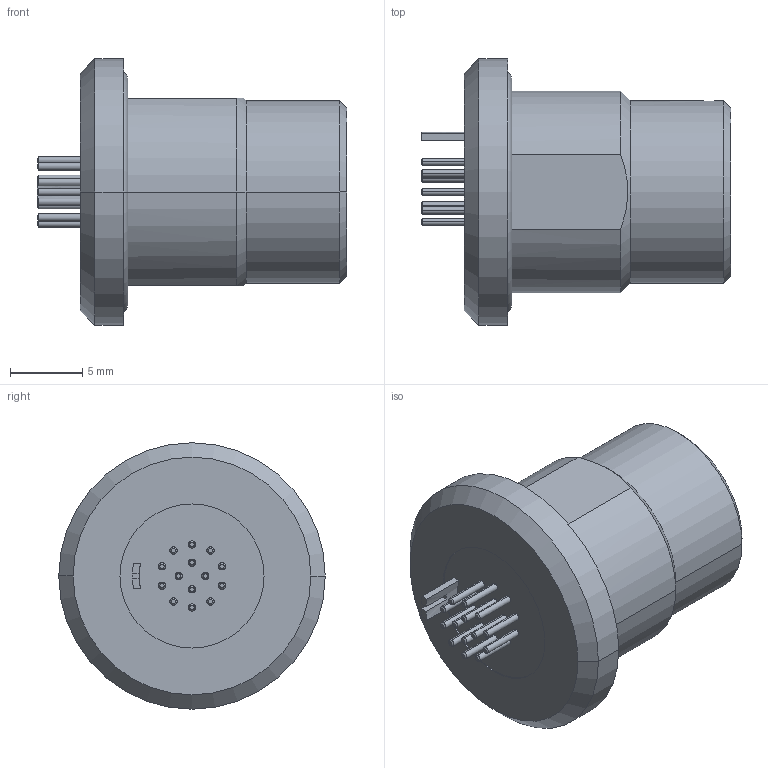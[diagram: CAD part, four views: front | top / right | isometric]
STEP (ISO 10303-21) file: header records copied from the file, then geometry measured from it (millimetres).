
FILE_DESCRIPTION((''),'2;1');
FILE_NAME('GK1Y_R-P14UC00-000L_WITHOUT-HEX','2020-10-22T08:03:32',('EUnterhaslberger'),(''),'CREO PARAMETRIC BY PTC INC, 2018300','CREO PARAMETRIC BY PTC INC, 2018300','');
FILE_SCHEMA(('AP242_MANAGED_MODEL_BASED_3D_ENGINEERING_MIM_LF { 1 0 10303 442 1 1 4 }'));
Length unit declared in the file: millimetre
Products named in the file (1): GK1Y_R-P14UC00-000L_WITHOUT-HEX
Bounding box: 21.5 x 18.5 x 18.5 mm (x, y, z)
Volume: 2384.6 mm3; surface area: 2434.3 mm2
Topology: 2 solids, 2 shells, 235 faces, 556 edges, 361 vertices
Faces by surface type: cone 71, plane 71, cylinder 69, torus 24
Entity records: 8656 total; most frequent: CARTESIAN_POINT 1350, DIRECTION 1285, ORIENTED_EDGE 1112, EDGE_CURVE 556, AXIS2_PLACEMENT_3D 532, VERTEX_POINT 361, CIRCLE 297, EDGE_LOOP 273
